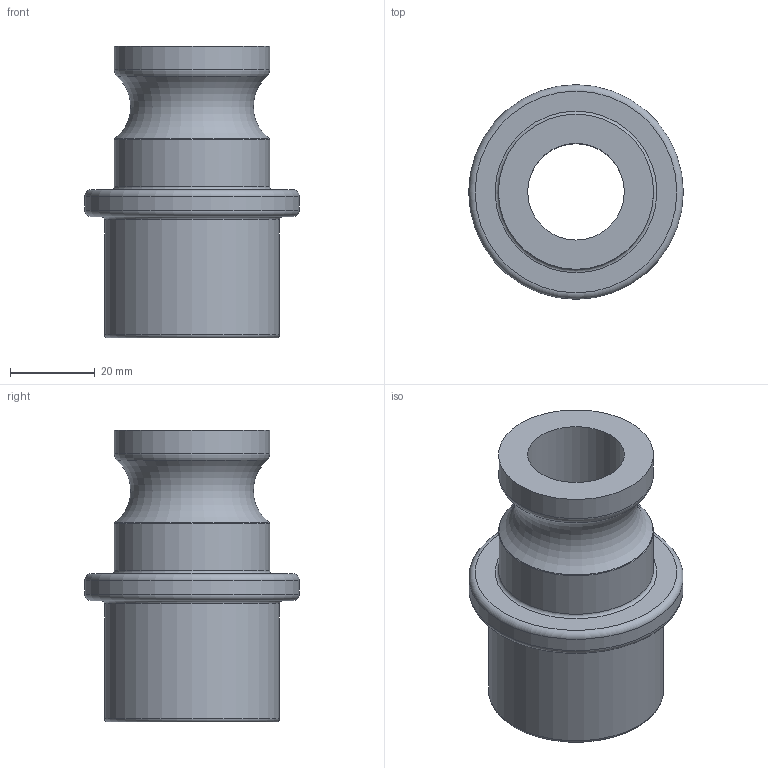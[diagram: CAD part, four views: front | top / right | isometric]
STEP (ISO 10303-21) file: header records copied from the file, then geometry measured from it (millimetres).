
FILE_DESCRIPTION(/* description */ ('Alibre Inc.'),/* implementation_level */ '2;1');
FILE_NAME(/* name */ 'export0',/* time_stamp */ '2016-04-26T10:42:01-04:00',/* author */ (''),/* organization */ (''),/* preprocessor_version */ 'ST-DEVELOPER v14',/* originating_system */ 'Alibre',/* authorisation */ '');
FILE_SCHEMA (('CONFIG_CONTROL_DESIGN'));
Length unit declared in the file: centimetre
Products named in the file (1): ID_1
Bounding box: 50.8 x 50.8 x 69.09 mm (x, y, z)
Volume: 41520.4 mm3; surface area: 17420.1 mm2
Topology: 1 solids, 1 shells, 20 faces, 38 edges, 23 vertices
Faces by surface type: torus 8, cylinder 6, plane 5, cone 1
Full cylindrical faces by diameter (mm): 22.86 x1, 33.274 x1, 36.728 x2, 41.402 x1, 50.8 x1
Entity records: 480 total; most frequent: DIRECTION 67, CARTESIAN_POINT 60, ORIENTED_EDGE 40, EDGE_LOOP 40, FACE_BOUND 40, AXIS2_PLACEMENT_3D 40, VERTEX_POINT 20, CIRCLE 20
